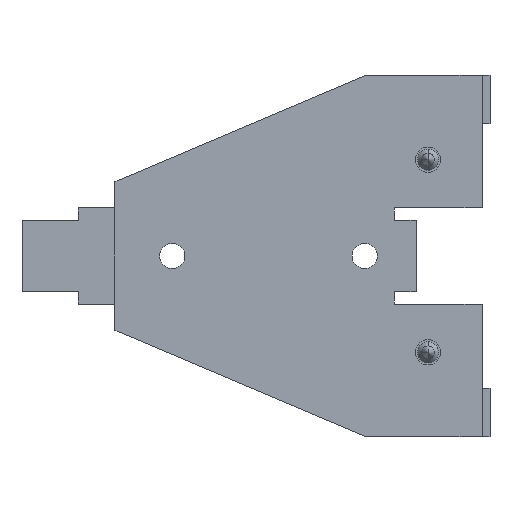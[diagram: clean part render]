
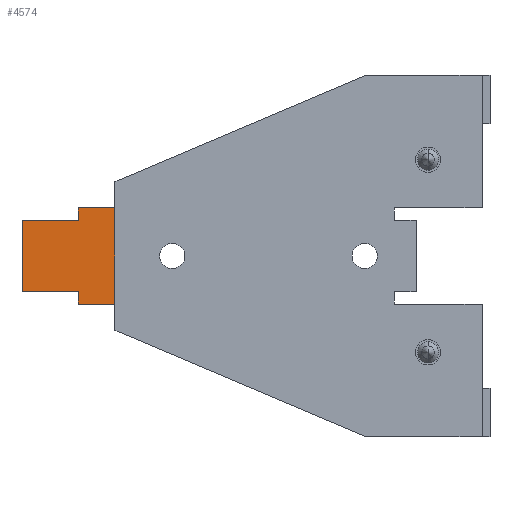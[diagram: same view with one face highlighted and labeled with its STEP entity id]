
A CAD part, left-side view. The second image highlights one B-rep face of the part: STEP entity #4574.
In plain terms, the highlighted planar face has unit normal (-1, 0, 0).
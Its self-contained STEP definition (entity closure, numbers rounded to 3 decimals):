
#45 = EDGE_CURVE ( 'NONE', #805, #804, #2239, .T. ) ;
#116 = EDGE_CURVE ( 'NONE', #784, #886, #2385, .T. ) ;
#223 = AXIS2_PLACEMENT_3D ( 'NONE', #3833, #3839, #3840 ) ;
#397 = EDGE_CURVE ( 'NONE', #804, #746, #2502, .T. ) ;
#465 = EDGE_CURVE ( 'NONE', #888, #885, #2927, .T. ) ;
#495 = EDGE_CURVE ( 'NONE', #784, #745, #2996, .T. ) ;
#551 = EDGE_CURVE ( 'NONE', #746, #745, #3093, .T. ) ;
#597 = EDGE_CURVE ( 'NONE', #886, #885, #4225, .T. ) ;
#607 = EDGE_CURVE ( 'NONE', #805, #888, #4242, .T. ) ;
#745 = VERTEX_POINT ( 'NONE', #3473 ) ;
#746 = VERTEX_POINT ( 'NONE', #3474 ) ;
#784 = VERTEX_POINT ( 'NONE', #3512 ) ;
#804 = VERTEX_POINT ( 'NONE', #3532 ) ;
#805 = VERTEX_POINT ( 'NONE', #3533 ) ;
#885 = VERTEX_POINT ( 'NONE', #3613 ) ;
#886 = VERTEX_POINT ( 'NONE', #3614 ) ;
#888 = VERTEX_POINT ( 'NONE', #3616 ) ;
#977 = CARTESIAN_POINT ( 'NONE',  ( 1.5, 58.1, 30. ) ) ;
#984 = DIRECTION ( 'NONE',  ( 0., 0., -1. ) ) ;
#1132 = CARTESIAN_POINT ( 'NONE',  ( 1.5, 58.1, 30. ) ) ;
#1133 = DIRECTION ( 'NONE',  ( 0., 0., -1. ) ) ;
#1255 = CARTESIAN_POINT ( 'NONE',  ( 1.5, 67.45, 5.9 ) ) ;
#1272 = DIRECTION ( 'NONE',  ( 0., 1., 0. ) ) ;
#1412 = CARTESIAN_POINT ( 'NONE',  ( 1.5, 52., 30. ) ) ;
#1413 = DIRECTION ( 'NONE',  ( 0., 0., -1. ) ) ;
#1473 = CARTESIAN_POINT ( 'NONE',  ( 1.5, 67.45, -5.9 ) ) ;
#1479 = DIRECTION ( 'NONE',  ( 0., 1., 0. ) ) ;
#1819 = ORIENTED_EDGE ( 'NONE', *, *, #45, .T. ) ;
#1820 = ORIENTED_EDGE ( 'NONE', *, *, #397, .T. ) ;
#1821 = ORIENTED_EDGE ( 'NONE', *, *, #551, .T. ) ;
#1822 = ORIENTED_EDGE ( 'NONE', *, *, #495, .F. ) ;
#1823 = ORIENTED_EDGE ( 'NONE', *, *, #116, .T. ) ;
#1824 = ORIENTED_EDGE ( 'NONE', *, *, #597, .T. ) ;
#1825 = ORIENTED_EDGE ( 'NONE', *, *, #465, .F. ) ;
#1826 = ORIENTED_EDGE ( 'NONE', *, *, #607, .F. ) ;
#2239 = LINE ( 'NONE', #977, #2250 ) ;
#2250 = VECTOR ( 'NONE', #984, 1000. ) ;
#2385 = LINE ( 'NONE', #1132, #2386 ) ;
#2386 = VECTOR ( 'NONE', #1133, 1000. ) ;
#2493 = VECTOR ( 'NONE', #1272, 1000. ) ;
#2502 = LINE ( 'NONE', #1255, #2493 ) ;
#2825 = EDGE_LOOP ( 'NONE', ( #1819, #1820, #1821, #1822, #1823, #1824, #1825, #1826 ) ) ;
#2914 = VECTOR ( 'NONE', #1413, 1000. ) ;
#2927 = LINE ( 'NONE', #1412, #2914 ) ;
#2980 = VECTOR ( 'NONE', #1479, 1000. ) ;
#2996 = LINE ( 'NONE', #1473, #2980 ) ;
#3093 = LINE ( 'NONE', #3195, #3094 ) ;
#3094 = VECTOR ( 'NONE', #3196, 1000. ) ;
#3195 = CARTESIAN_POINT ( 'NONE',  ( 1.5, 67.45, 15.37 ) ) ;
#3196 = DIRECTION ( 'NONE',  ( 0., 0., -1. ) ) ;
#3297 = CARTESIAN_POINT ( 'NONE',  ( 1.5, 58.1, -8. ) ) ;
#3298 = DIRECTION ( 'NONE',  ( 0., -1., 0. ) ) ;
#3319 = CARTESIAN_POINT ( 'NONE',  ( 1.5, 52., 8. ) ) ;
#3320 = DIRECTION ( 'NONE',  ( 0., -1., 0. ) ) ;
#3473 = CARTESIAN_POINT ( 'NONE',  ( 1.5, 67.45, -5.9 ) ) ;
#3474 = CARTESIAN_POINT ( 'NONE',  ( 1.5, 67.45, 5.9 ) ) ;
#3512 = CARTESIAN_POINT ( 'NONE',  ( 1.5, 58.1, -5.9 ) ) ;
#3532 = CARTESIAN_POINT ( 'NONE',  ( 1.5, 58.1, 5.9 ) ) ;
#3533 = CARTESIAN_POINT ( 'NONE',  ( 1.5, 58.1, 8. ) ) ;
#3613 = CARTESIAN_POINT ( 'NONE',  ( 1.5, 52., -8. ) ) ;
#3614 = CARTESIAN_POINT ( 'NONE',  ( 1.5, 58.1, -8. ) ) ;
#3616 = CARTESIAN_POINT ( 'NONE',  ( 1.5, 52., 8. ) ) ;
#3830 = PLANE ( 'NONE',  #223 ) ;
#3833 = CARTESIAN_POINT ( 'NONE',  ( 1.5, 58.1, 30. ) ) ;
#3839 = DIRECTION ( 'NONE',  ( 1., 0., 0. ) ) ;
#3840 = DIRECTION ( 'NONE',  ( 0., 0., -1. ) ) ;
#4225 = LINE ( 'NONE', #3297, #4226 ) ;
#4226 = VECTOR ( 'NONE', #3298, 1000. ) ;
#4242 = LINE ( 'NONE', #3319, #4243 ) ;
#4243 = VECTOR ( 'NONE', #3320, 1000. ) ;
#4359 = FACE_OUTER_BOUND ( 'NONE', #2825, .T. ) ;
#4574 = ADVANCED_FACE ( 'NONE', ( #4359 ), #3830, .F. ) ;
